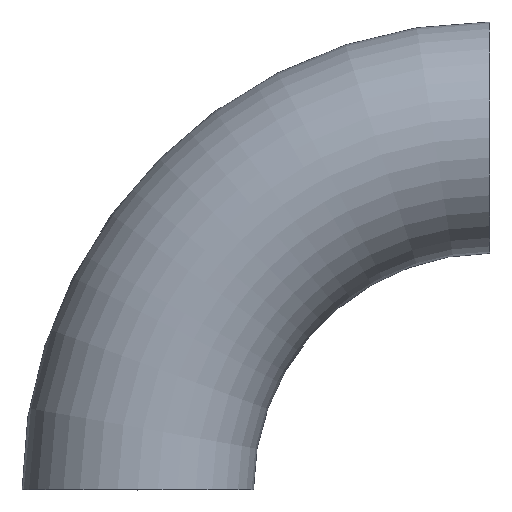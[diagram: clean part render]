
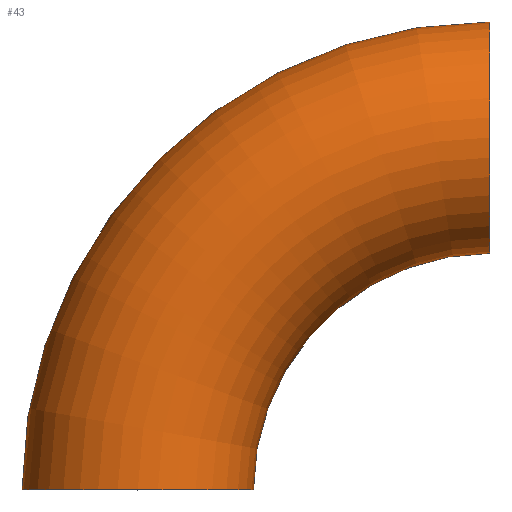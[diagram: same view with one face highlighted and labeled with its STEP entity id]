
A CAD part, top view. The second image highlights one B-rep face of the part: STEP entity #43.
In plain terms, the highlighted toroidal (fillet/blend) face has major radius 35 mm and minor radius 11.5 mm.
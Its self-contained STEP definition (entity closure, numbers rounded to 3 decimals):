
#15 = CARTESIAN_POINT ( 'NONE',  ( 35., 0., 0. ) ) ;
#17 = CARTESIAN_POINT ( 'NONE',  ( 35., 23.5, 0. ) ) ;
#20 = VERTEX_POINT ( 'NONE', #223 ) ;
#21 = CARTESIAN_POINT ( 'NONE',  ( 0., 0., 0. ) ) ;
#25 = EDGE_CURVE ( 'NONE', #180, #219, #202, .T. ) ;
#28 = ORIENTED_EDGE ( 'NONE', *, *, #25, .F. ) ;
#33 = ORIENTED_EDGE ( 'NONE', *, *, #164, .T. ) ;
#35 = AXIS2_PLACEMENT_3D ( 'NONE', #54, #130, #74 ) ;
#43 = ADVANCED_FACE ( 'NONE', ( #116 ), #188, .T. ) ;
#48 = ORIENTED_EDGE ( 'NONE', *, *, #218, .T. ) ;
#53 = CIRCLE ( 'NONE', #151, 11.5 ) ;
#54 = CARTESIAN_POINT ( 'NONE',  ( 35., 0., 0. ) ) ;
#62 = AXIS2_PLACEMENT_3D ( 'NONE', #15, #247, #77 ) ;
#74 = DIRECTION ( 'NONE',  ( 1., 0., 0. ) ) ;
#75 = CIRCLE ( 'NONE', #191, 46.5 ) ;
#77 = DIRECTION ( 'NONE',  ( 1., 0., 0. ) ) ;
#79 = DIRECTION ( 'NONE',  ( 0., 0., 1. ) ) ;
#103 = DIRECTION ( 'NONE',  ( 0., 0., 1. ) ) ;
#116 = FACE_OUTER_BOUND ( 'NONE', #181, .T. ) ;
#119 = VERTEX_POINT ( 'NONE', #134 ) ;
#130 = DIRECTION ( 'NONE',  ( 0., 0., 1. ) ) ;
#134 = CARTESIAN_POINT ( 'NONE',  ( -11.5, 0., 0. ) ) ;
#144 = EDGE_CURVE ( 'NONE', #20, #180, #53, .T. ) ;
#151 = AXIS2_PLACEMENT_3D ( 'NONE', #192, #226, #155 ) ;
#153 = CARTESIAN_POINT ( 'NONE',  ( 11.5, 0., 0. ) ) ;
#155 = DIRECTION ( 'NONE',  ( 0., 0., 1. ) ) ;
#164 = EDGE_CURVE ( 'NONE', #20, #119, #75, .T. ) ;
#180 = VERTEX_POINT ( 'NONE', #17 ) ;
#181 = EDGE_LOOP ( 'NONE', ( #243, #33, #48, #28 ) ) ;
#188 = TOROIDAL_SURFACE ( 'NONE', #62, 35., 11.5 ) ;
#191 = AXIS2_PLACEMENT_3D ( 'NONE', #250, #103, #227 ) ;
#192 = CARTESIAN_POINT ( 'NONE',  ( 35., 35., 0. ) ) ;
#202 = CIRCLE ( 'NONE', #35, 23.5 ) ;
#204 = AXIS2_PLACEMENT_3D ( 'NONE', #21, #251, #79 ) ;
#206 = CIRCLE ( 'NONE', #204, 11.5 ) ;
#218 = EDGE_CURVE ( 'NONE', #119, #219, #206, .T. ) ;
#219 = VERTEX_POINT ( 'NONE', #153 ) ;
#223 = CARTESIAN_POINT ( 'NONE',  ( 35., 46.5, 0. ) ) ;
#226 = DIRECTION ( 'NONE',  ( 1., 0., 0. ) ) ;
#227 = DIRECTION ( 'NONE',  ( 1., 0., 0. ) ) ;
#243 = ORIENTED_EDGE ( 'NONE', *, *, #144, .F. ) ;
#247 = DIRECTION ( 'NONE',  ( 0., 0., 1. ) ) ;
#250 = CARTESIAN_POINT ( 'NONE',  ( 35., 0., 0. ) ) ;
#251 = DIRECTION ( 'NONE',  ( 0., 1., 0. ) ) ;
